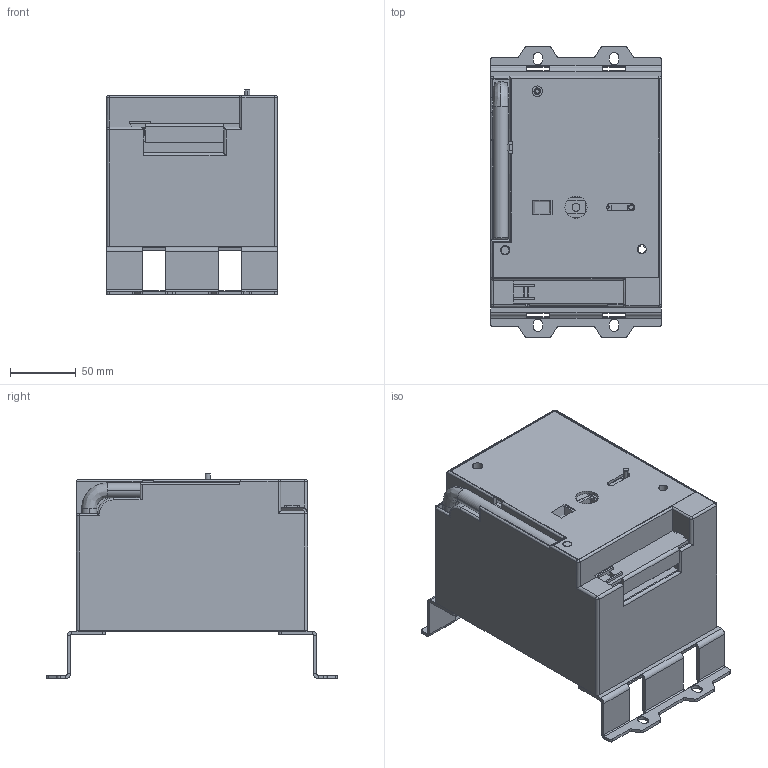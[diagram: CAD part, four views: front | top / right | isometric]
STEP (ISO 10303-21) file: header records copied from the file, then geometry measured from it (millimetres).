
FILE_DESCRIPTION (( 'STEP AP214' ), '1' );
FILE_NAME ('TGM1NE-CD2-630(big size).STEP', '2025-12-11T10:22:27', ( '' ), ( '' ), 'SwSTEP 2.0', 'SolidWorks 2024', '' );
FILE_SCHEMA (( 'AUTOMOTIVE_DESIGN' ));
Length unit declared in the file: millimetre
Products named in the file (4): CD2-400-630____L_1.STEP; TGM1NE-630 ________.STEP; TGM1NE-CD2-630(big size).STEP; TGM1NE-CD2-630(big size)
Assembly tree (4 placements, depth 3):
  TGM1NE-CD2-630(big size)
    TGM1NE-CD2-630(big size).STEP
      CD2-400-630____L_1.STEP
      TGM1NE-630 ________.STEP  x2
Bounding box: 130 x 221 x 155.8 mm (x, y, z)
Volume: 478884.5 mm3; surface area: 338916.6 mm2
Topology: 10 solids, 10 shells, 1258 faces, 3396 edges, 2224 vertices
Faces by surface type: plane 677, cylinder 293, bspline 274, cone 12, torus 2
Entity records: 53007 total; most frequent: CARTESIAN_POINT 24325, ORIENTED_EDGE 6398, DIRECTION 5006, EDGE_CURVE 3199, VERTEX_POINT 2104, LINE 2056, VECTOR 2056, AXIS2_PLACEMENT_3D 1475
